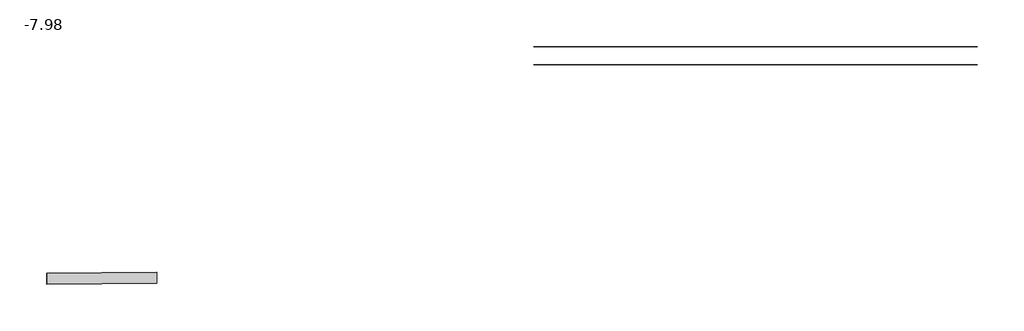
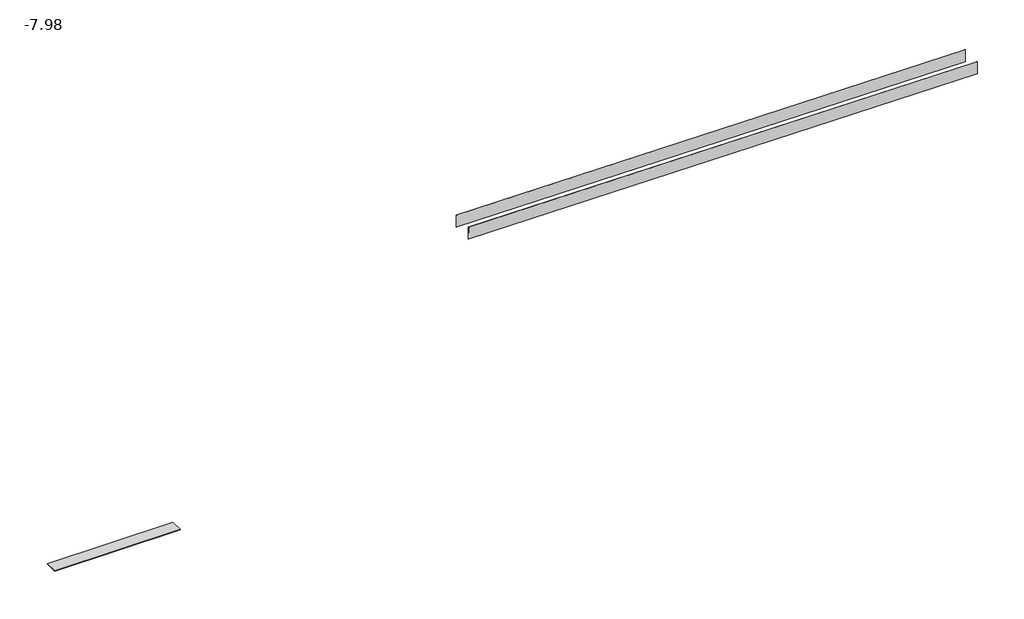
# One storey: 3 proxies.
"""IFC4 building model written with IfcOpenShell, lengths in millimetres."""

from ifc_helpers import new_model, si_unit, origin, place, context, project, spatial, transform, mapped, element, save
from components import generic_models_d7413c9f, generic_models_d2abf90b, generic_models_c31f7ad0

model = new_model("IFC4")

# Units and contexts
model_context = context("Model", 3, world=origin())
ifc_project = project(units=[si_unit("LENGTHUNIT", "METRE", prefix="MILLI")], contexts=[model_context])

# Site, building, storey
site = spatial("IfcSite", under=ifc_project)
building = spatial("IfcBuilding", under=site)
storey = spatial("IfcBuildingStorey", under=building, Name="-7.98", Elevation=-1005.0731411)

# Proxies
placement = place(None, origin())
generic_models_shape = generic_models_d7413c9f(model_context)
element("IfcBuildingElementProxy", 1, Name="Sika® CarboDur® M914 : Sika® CarboDur® S1012", ObjectType="Sika® CarboDur® M914 : Sika® CarboDur® S1012", at=placement, inside=storey, context=model_context, shape_type="MappedRepresentation", body=[
    mapped(generic_models_shape, transform((55092.255717, 26063.0103285, -981.5923568), x_axis=(0.999944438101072, 0.008106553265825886, -0.006738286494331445), y_axis=(0.00810636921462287, -0.999967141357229, -5.462607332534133e-05), z_axis=(-0.0067385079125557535, 0.0, -0.9999772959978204))),
])
generic_models_2_shape = generic_models_d2abf90b(model_context)
element("IfcBuildingElementProxy", 2, Name="Sika® CarboDur® M914 : Sika® CarboDur® S1012", ObjectType="Sika® CarboDur® M914 : Sika® CarboDur® S1012", at=placement, inside=storey, context=model_context, shape_type="MappedRepresentation", body=[
    mapped(generic_models_2_shape, transform((61036.9897358, 28003.3920265, -918.6436883), x_axis=(0.9999772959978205, 0.0, -0.006738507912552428), y_axis=(0.006738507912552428, 0.0, 0.9999772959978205), z_axis=(0.0, -1.0, 0.0))),
])
generic_models_3_shape = generic_models_c31f7ad0(model_context)
element("IfcBuildingElementProxy", 3, Name="Sika® CarboDur® M914 : Sika® CarboDur® S1012", ObjectType="Sika® CarboDur® M914 : Sika® CarboDur® S1012", at=placement, inside=storey, context=model_context, shape_type="MappedRepresentation", body=[
    mapped(generic_models_3_shape, transform((61036.9897358, 28168.3920265, -918.6436883), x_axis=(0.9999772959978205, 0.0, -0.006738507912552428), y_axis=(-0.006738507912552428, 0.0, -0.9999772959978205), z_axis=(0.0, 1.0, 0.0))),
])

save(model, "model.ifc")
